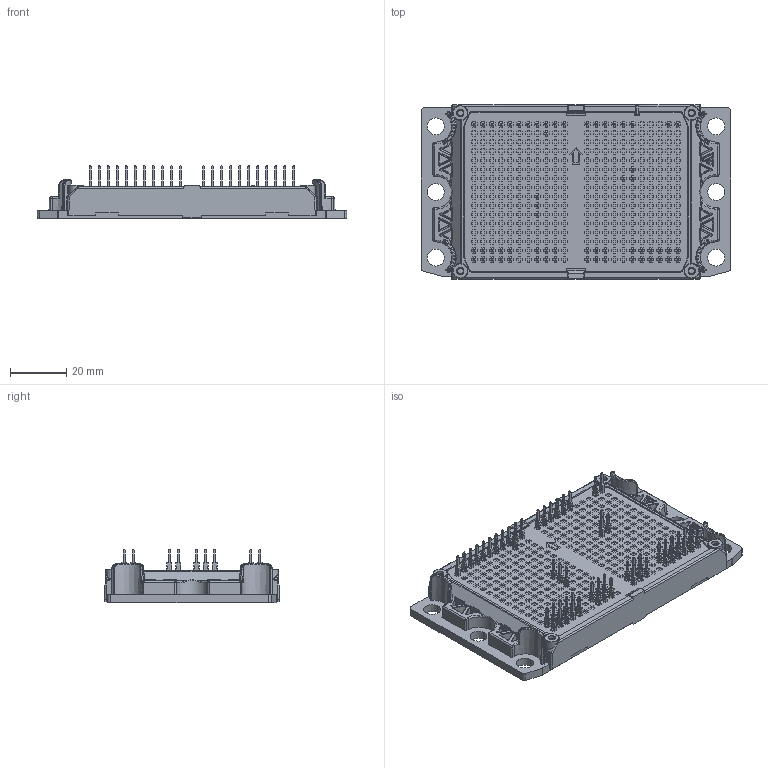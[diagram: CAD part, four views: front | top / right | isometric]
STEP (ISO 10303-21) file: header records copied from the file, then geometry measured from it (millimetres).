
FILE_DESCRIPTION(/* description */ ('Unknown'),/* implementation_level */ '2;1');
FILE_NAME(/* name */ 'FlowE3BP-4T15ZB-PS50(600)-02-OL',/* time_stamp */ '2025-10-29T13:14:13+01:00',/* author */ ('Unknown'),/* organization */ ('Unknown'),/* preprocessor_version */ 'ST-DEVELOPER v20',/* originating_system */ 'Solid Edge',/* authorisation */ 'Unknown');
FILE_SCHEMA (('TECHNICAL_DATA_PACKAGING','AUTOMOTIVE_DESIGN {1 0 10303 214 3 1 1}'));
Products named in the file (1): FlowE3BP-4T15ZB-PS50-OL
Bounding box: 109.6 x 61.99 x 19.12 mm (x, y, z)
Volume: 58923.9 mm3; surface area: 39060.5 mm2
Topology: 1 solids, 1 shells, 8894 faces, 25286 edges, 16680 vertices
Faces by surface type: plane 7247, cylinder 1000, bspline 308, cone 243, torus 68, sphere 28
Full cylindrical faces by diameter (mm): 2.6 x4, 3 x4, 6 x6
Entity records: 354134 total; most frequent: CARTESIAN_POINT 61004, ORIENTED_EDGE 50448, DIRECTION 44251, EDGE_CURVE 25224, LINE 20401, VECTOR 20401, VERTEX_POINT 16664, AXIS2_PLACEMENT_3D 11925
